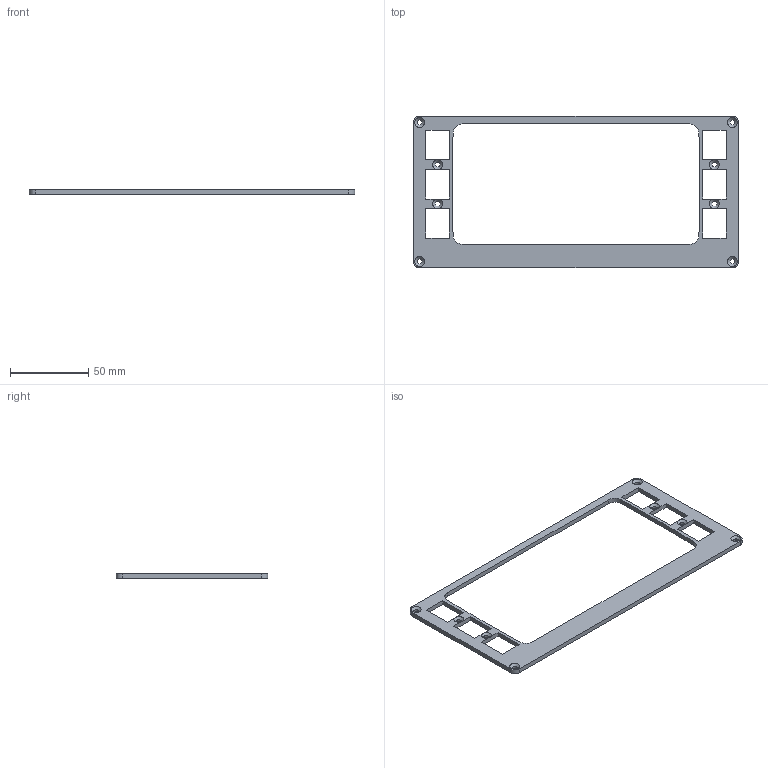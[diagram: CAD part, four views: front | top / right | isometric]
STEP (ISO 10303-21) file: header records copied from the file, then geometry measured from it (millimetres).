
FILE_DESCRIPTION(/* description */ (''),/* implementation_level */ '2;1');
FILE_NAME(/* name */ 'C:/Users/anton/Documents/Kerbal Space Program/Kerbal_Control_Panel/KCP2/CAD/STEPs/ModuleH_v29.step',/* time_stamp */ '2020-11-12T08:03:51-08:00',/* author */ (''),/* organization */ (''),/* preprocessor_version */ 'ST-DEVELOPER v18.1',/* originating_system */ 'Autodesk Translation Framework v9.3.0.1241',/* authorisation */ '');
FILE_SCHEMA (('AUTOMOTIVE_DESIGN { 1 0 10303 214 3 1 1 }'));
Length unit declared in the file: millimetre
Products named in the file (1): Module H Plate
Bounding box: 208 x 97 x 3 mm (x, y, z)
Volume: 18694.3 mm3; surface area: 17151.2 mm2
Topology: 1 solids, 1 shells, 60 faces, 190 edges, 124 vertices
Faces by surface type: plane 32, cylinder 20, cone 8
Full cylindrical faces by diameter (mm): 3.4 x8
Entity records: 2198 total; most frequent: CARTESIAN_POINT 391, ORIENTED_EDGE 380, DIRECTION 360, EDGE_CURVE 190, LINE 126, VECTOR 126, VERTEX_POINT 124, AXIS2_PLACEMENT_3D 117
